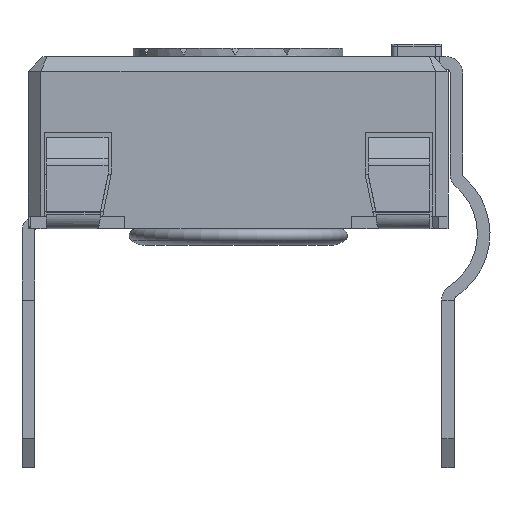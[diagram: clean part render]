
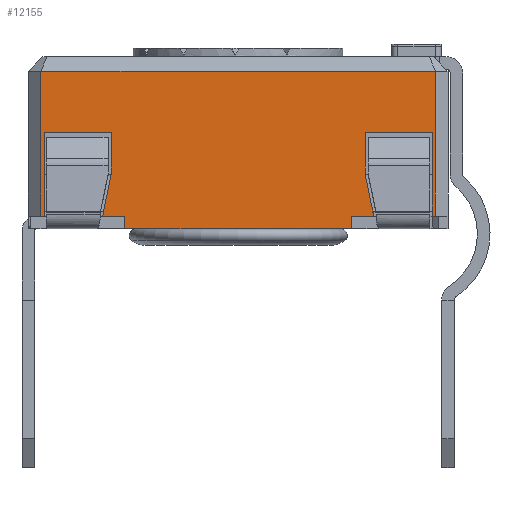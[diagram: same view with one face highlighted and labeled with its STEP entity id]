
A CAD part, left-side view. The second image highlights one B-rep face of the part: STEP entity #12155.
In plain terms, the highlighted planar face has unit normal (-1, 0, 0).
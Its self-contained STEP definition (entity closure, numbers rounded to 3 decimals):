
#869=PLANE('',#13061);
#1469=FACE_OUTER_BOUND('',#2096,.T.);
#2096=EDGE_LOOP('',(#10702,#10703,#10704,#10705,#10706,#10707,#10708,#10709,
#10710,#10711,#10712,#10713,#10714,#10715,#10716,#10717,#10718,#10719));
#2929=LINE('',#18418,#4335);
#2960=LINE('',#18480,#4366);
#2966=LINE('',#18492,#4372);
#2987=LINE('',#18534,#4393);
#3157=LINE('',#19066,#4563);
#3200=LINE('',#19148,#4606);
#3203=LINE('',#19154,#4609);
#3348=LINE('',#19518,#4754);
#3350=LINE('',#19522,#4756);
#3354=LINE('',#19530,#4760);
#3357=LINE('',#19536,#4763);
#3364=LINE('',#19550,#4770);
#3366=LINE('',#19554,#4772);
#3372=LINE('',#19565,#4778);
#3373=LINE('',#19567,#4779);
#3374=LINE('',#19570,#4780);
#3375=LINE('',#19572,#4781);
#3376=LINE('',#19573,#4782);
#4335=VECTOR('',#14852,10.);
#4366=VECTOR('',#14887,10.);
#4372=VECTOR('',#14893,10.);
#4393=VECTOR('',#14916,10.);
#4563=VECTOR('',#15396,10.);
#4606=VECTOR('',#15471,10.);
#4609=VECTOR('',#15480,10.);
#4754=VECTOR('',#15833,10.);
#4756=VECTOR('',#15837,10.);
#4760=VECTOR('',#15843,10.);
#4763=VECTOR('',#15848,10.);
#4770=VECTOR('',#15863,10.);
#4772=VECTOR('',#15867,10.);
#4778=VECTOR('',#15879,10.);
#4779=VECTOR('',#15882,10.);
#4780=VECTOR('',#15885,10.);
#4781=VECTOR('',#15886,10.);
#4782=VECTOR('',#15887,10.);
#5661=VERTEX_POINT('',#18415);
#5662=VERTEX_POINT('',#18417);
#5690=VERTEX_POINT('',#18477);
#5691=VERTEX_POINT('',#18479);
#5696=VERTEX_POINT('',#18489);
#5697=VERTEX_POINT('',#18491);
#5716=VERTEX_POINT('',#18531);
#5717=VERTEX_POINT('',#18533);
#5869=VERTEX_POINT('',#19063);
#5870=VERTEX_POINT('',#19065);
#5984=VERTEX_POINT('',#19516);
#5985=VERTEX_POINT('',#19521);
#5988=VERTEX_POINT('',#19528);
#5990=VERTEX_POINT('',#19535);
#5993=VERTEX_POINT('',#19549);
#5994=VERTEX_POINT('',#19553);
#5997=VERTEX_POINT('',#19569);
#5998=VERTEX_POINT('',#19571);
#7072=EDGE_CURVE('',#5662,#5661,#2929,.T.);
#7103=EDGE_CURVE('',#5691,#5690,#2960,.T.);
#7109=EDGE_CURVE('',#5697,#5696,#2966,.T.);
#7130=EDGE_CURVE('',#5717,#5716,#2987,.T.);
#7378=EDGE_CURVE('',#5870,#5869,#3157,.T.);
#7421=EDGE_CURVE('',#5691,#5869,#3200,.T.);
#7424=EDGE_CURVE('',#5696,#5870,#3203,.T.);
#7603=EDGE_CURVE('',#5690,#5984,#3348,.T.);
#7605=EDGE_CURVE('',#5985,#5697,#3350,.T.);
#7609=EDGE_CURVE('',#5984,#5988,#3354,.T.);
#7612=EDGE_CURVE('',#5990,#5985,#3357,.T.);
#7619=EDGE_CURVE('',#5993,#5990,#3364,.T.);
#7621=EDGE_CURVE('',#5994,#5717,#3366,.T.);
#7627=EDGE_CURVE('',#5988,#5994,#3372,.T.);
#7628=EDGE_CURVE('',#5661,#5993,#3373,.T.);
#7629=EDGE_CURVE('',#5997,#5716,#3374,.T.);
#7630=EDGE_CURVE('',#5998,#5997,#3375,.T.);
#7631=EDGE_CURVE('',#5998,#5662,#3376,.T.);
#10702=ORIENTED_EDGE('',*,*,#7628,.T.);
#10703=ORIENTED_EDGE('',*,*,#7619,.T.);
#10704=ORIENTED_EDGE('',*,*,#7612,.T.);
#10705=ORIENTED_EDGE('',*,*,#7605,.T.);
#10706=ORIENTED_EDGE('',*,*,#7109,.T.);
#10707=ORIENTED_EDGE('',*,*,#7424,.T.);
#10708=ORIENTED_EDGE('',*,*,#7378,.T.);
#10709=ORIENTED_EDGE('',*,*,#7421,.F.);
#10710=ORIENTED_EDGE('',*,*,#7103,.T.);
#10711=ORIENTED_EDGE('',*,*,#7603,.T.);
#10712=ORIENTED_EDGE('',*,*,#7609,.T.);
#10713=ORIENTED_EDGE('',*,*,#7627,.T.);
#10714=ORIENTED_EDGE('',*,*,#7621,.T.);
#10715=ORIENTED_EDGE('',*,*,#7130,.T.);
#10716=ORIENTED_EDGE('',*,*,#7629,.F.);
#10717=ORIENTED_EDGE('',*,*,#7630,.F.);
#10718=ORIENTED_EDGE('',*,*,#7631,.T.);
#10719=ORIENTED_EDGE('',*,*,#7072,.T.);
#12155=ADVANCED_FACE('',(#1469),#869,.T.);
#13061=AXIS2_PLACEMENT_3D('',#19568,#15883,#15884);
#14852=DIRECTION('',(0.,-1.,0.));
#14887=DIRECTION('',(0.,-1.,0.));
#14893=DIRECTION('',(0.,-1.,0.));
#14916=DIRECTION('',(0.,-1.,0.));
#15396=DIRECTION('',(0.,-1.,0.));
#15471=DIRECTION('',(0.,0.,-1.));
#15480=DIRECTION('',(0.,0.,-1.));
#15833=DIRECTION('',(0.,0.199,0.98));
#15837=DIRECTION('',(0.,0.199,-0.98));
#15843=DIRECTION('',(0.,0.,1.));
#15848=DIRECTION('',(0.,0.,-1.));
#15863=DIRECTION('',(0.,-1.,0.));
#15867=DIRECTION('',(0.,0.,-1.));
#15879=DIRECTION('',(0.,-1.,0.));
#15882=DIRECTION('',(0.,0.,1.));
#15883=DIRECTION('center_axis',(-1.,0.,0.));
#15884=DIRECTION('ref_axis',(0.,0.,1.));
#15885=DIRECTION('',(0.,0.,-1.));
#15886=DIRECTION('',(0.,-1.,0.));
#15887=DIRECTION('',(0.,0.,-1.));
#18415=CARTESIAN_POINT('',(-31.348,-8.365,-3.8));
#18417=CARTESIAN_POINT('',(-31.348,-8.29,-3.8));
#18418=CARTESIAN_POINT('',(-31.348,-17.69,-3.8));
#18477=CARTESIAN_POINT('',(-31.348,-16.219,-3.8));
#18479=CARTESIAN_POINT('',(-31.348,-15.69,-3.8));
#18480=CARTESIAN_POINT('',(-31.348,-9.762,-3.8));
#18489=CARTESIAN_POINT('',(-31.348,-10.29,-3.8));
#18491=CARTESIAN_POINT('',(-31.348,-9.762,-3.8));
#18492=CARTESIAN_POINT('',(-31.348,-9.762,-3.8));
#18531=CARTESIAN_POINT('',(-31.348,-17.69,-3.8));
#18533=CARTESIAN_POINT('',(-31.348,-17.615,-3.8));
#18534=CARTESIAN_POINT('',(-31.348,-17.69,-3.8));
#19063=CARTESIAN_POINT('',(-31.348,-15.69,-4.1));
#19065=CARTESIAN_POINT('',(-31.348,-10.29,-4.1));
#19066=CARTESIAN_POINT('',(-31.348,-16.219,-4.1));
#19148=CARTESIAN_POINT('',(-31.348,-15.69,-3.8));
#19154=CARTESIAN_POINT('',(-31.348,-10.29,-3.8));
#19516=CARTESIAN_POINT('',(-31.348,-16.015,-2.8));
#19518=CARTESIAN_POINT('',(-31.348,-16.219,-3.8));
#19521=CARTESIAN_POINT('',(-31.348,-9.965,-2.8));
#19522=CARTESIAN_POINT('',(-31.348,-9.965,-2.8));
#19528=CARTESIAN_POINT('',(-31.348,-16.015,-1.8));
#19530=CARTESIAN_POINT('',(-31.348,-16.015,-2.8));
#19535=CARTESIAN_POINT('',(-31.348,-9.965,-1.8));
#19536=CARTESIAN_POINT('',(-31.348,-9.965,-1.8));
#19549=CARTESIAN_POINT('',(-31.348,-8.365,-1.8));
#19550=CARTESIAN_POINT('',(-31.348,-10.64,-1.8));
#19553=CARTESIAN_POINT('',(-31.348,-17.615,-1.8));
#19554=CARTESIAN_POINT('',(-31.348,-17.615,-1.368));
#19565=CARTESIAN_POINT('',(-31.348,-10.64,-1.8));
#19567=CARTESIAN_POINT('',(-31.348,-8.365,-1.368));
#19568=CARTESIAN_POINT('Origin',(-31.348,-8.29,0.));
#19569=CARTESIAN_POINT('',(-31.348,-17.69,-0.35));
#19570=CARTESIAN_POINT('',(-31.348,-17.69,0.));
#19571=CARTESIAN_POINT('',(-31.348,-8.29,-0.35));
#19572=CARTESIAN_POINT('',(-31.348,-10.64,-0.35));
#19573=CARTESIAN_POINT('',(-31.348,-8.29,0.));
